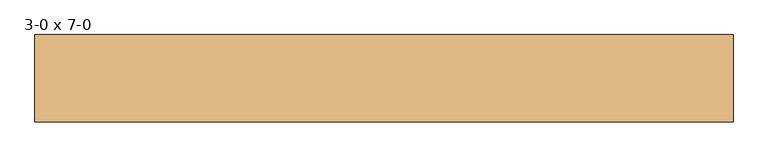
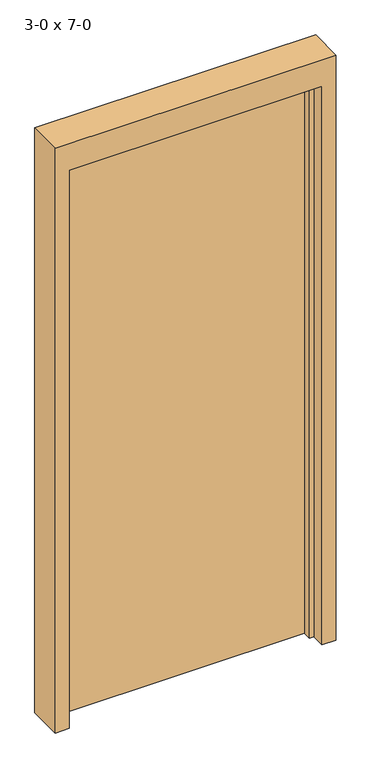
"""IFC4 building model written with IfcOpenShell, lengths in millimetres: door geometry, Butt Frame_S_BA : 3-0 x 7-0."""

from ifc_helpers import new_model, si_unit, origin, origin_with_axes, place, context, project, spatial, polyline, outline, extrude, faceted_brep, source, transform, mapped, element, save


def door_3_0_x_7_0_07df3c89(model_context):
    return source(origin(), model_context, "Body", "SolidModel", [
        extrude(outline(polyline([(939.8, 54.76875), (25.4, 54.76875), (25.4, 99.21875), (939.8, 99.21875), (939.8, 54.76875)])), origin_with_axes(), (0.0, 0.0, 1.0), 2133.6),
        faceted_brep([(25.4, -25.4, 0.0), (-25.4, -25.4, 0.0), (-25.4, 101.6, 0.0), (25.4, 101.6, 0.0), (25.4, 52.3875, 0.0), (41.275, 52.3875, 0.0), (41.275, 23.8125, 0.0), (25.4, 23.8125, 0.0), (939.8, -25.4, 0.0), (939.8, 23.8125, 0.0), (923.925, 23.8125, 0.0), (923.925, 52.3875, 0.0), (939.8, 52.3875, 0.0), (939.8, 101.6, 0.0), (990.6, 101.6, 0.0), (990.6, -25.4, 0.0), (-25.4, -25.4, 2235.2), (25.4, -25.4, 2133.6), (939.8, -25.4, 2133.6), (990.6, -25.4, 2235.2), (-25.4, 101.6, 2235.2), (990.6, 101.6, 2235.2), (939.8, 101.6, 2133.6), (25.4, 101.6, 2133.6), (25.4, 52.3875, 2133.6), (939.8, 52.3875, 2133.6), (923.925, 52.3875, 2117.725), (41.275, 52.3875, 2117.725), (41.275, 23.8125, 2117.725), (923.925, 23.8125, 2117.725), (939.8, 23.8125, 2133.6), (25.4, 23.8125, 2133.6)], [[[0, 1, 2, 3, 4, 5, 6, 7]], [[8, 9, 10, 11, 12, 13, 14, 15]], [[16, 1, 0, 17, 18, 8, 15, 19]], [[20, 2, 1, 16]], [[3, 2, 20, 21, 14, 13, 22, 23]], [[24, 4, 3, 23]], [[5, 4, 24, 25, 12, 11, 26, 27]], [[6, 5, 27, 28]], [[7, 6, 28, 29, 10, 9, 30, 31]], [[0, 7, 31, 17]], [[30, 9, 8, 18]], [[11, 10, 29, 26]], [[13, 12, 25, 22]], [[19, 15, 14, 21]], [[18, 17, 31, 30]], [[27, 26, 29, 28]], [[23, 22, 25, 24]], [[19, 21, 20, 16]]]),
    ])


if __name__ == "__main__":
    model = new_model("IFC4")
    model_context = context("Model", 3, world=origin())
    ifc_project = project(units=[si_unit("LENGTHUNIT", "METRE", prefix="MILLI")], contexts=[model_context])
    site = spatial("IfcSite", under=ifc_project)
    building = spatial("IfcBuilding", under=site)
    placement = place(None, origin())
    door_3_0_x_7_0_shape = door_3_0_x_7_0_07df3c89(model_context)
    element("IfcDoor", 1, ObjectType="Butt Frame_S_BA : 3-0 x 7-0", at=placement, inside=building, context=model_context, shape_type="MappedRepresentation", body=[
        mapped(door_3_0_x_7_0_shape, transform((0.0, 0.0, 0.0), x_axis=(1.0, 0.0, 0.0), y_axis=(0.0, 1.0, 0.0), z_axis=(0.0, 0.0, 1.0))),
    ])
    save(model, "model.ifc")
